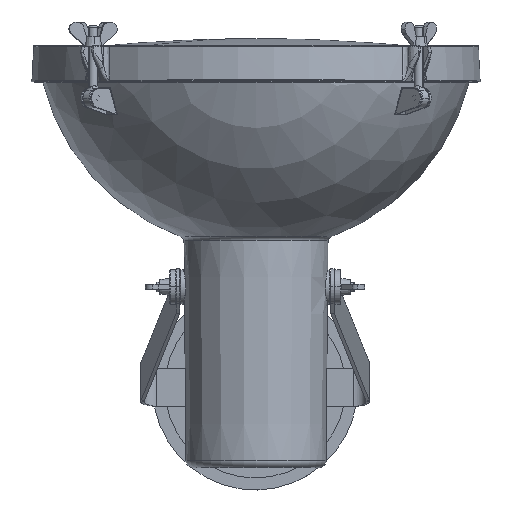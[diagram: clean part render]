
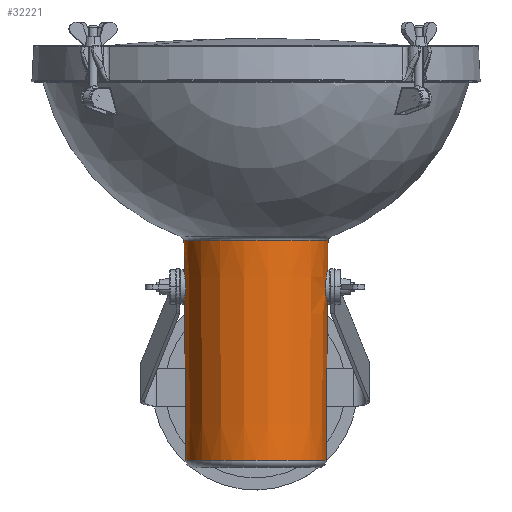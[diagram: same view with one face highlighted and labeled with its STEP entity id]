
A CAD part, top view. The second image highlights one B-rep face of the part: STEP entity #32221.
In plain terms, the highlighted conical face has half-angle 0.515 degrees and reference radius 58.11 mm.
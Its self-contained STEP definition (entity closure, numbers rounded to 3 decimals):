
#44 = DIRECTION ( 'NONE',  ( 0.009, 1., 0. ) ) ;
#427 = AXIS2_PLACEMENT_3D ( 'NONE', #31185, #9701, #34783 ) ;
#1172 = DIRECTION ( 'NONE',  ( -1., 0., 0. ) ) ;
#1487 = CARTESIAN_POINT ( 'NONE',  ( 59.01, 73.748, 243.933 ) ) ;
#1629 = CARTESIAN_POINT ( 'NONE',  ( 58.455, 86.421, 247.081 ) ) ;
#1712 = DIRECTION ( 'NONE',  ( 0., 1., 0. ) ) ;
#1784 = CARTESIAN_POINT ( 'NONE',  ( 59.855, 95.973, 239.519 ) ) ;
#2730 = VECTOR ( 'NONE', #20525, 1000. ) ;
#5096 = CARTESIAN_POINT ( 'NONE',  ( 58.705, 76.024, 245.565 ) ) ;
#5243 = CARTESIAN_POINT ( 'NONE',  ( 58.56, 87.772, 246.694 ) ) ;
#5415 = CARTESIAN_POINT ( 'NONE',  ( 60.015, 96.664, 237.796 ) ) ;
#8549 = CARTESIAN_POINT ( 'NONE',  ( 59.832, 69.399, 236.903 ) ) ;
#8713 = CARTESIAN_POINT ( 'NONE',  ( 58.506, 78.139, 246.542 ) ) ;
#8830 = LINE ( 'NONE', #33281, #17226 ) ;
#8867 = CARTESIAN_POINT ( 'NONE',  ( 58.735, 89.506, 245.997 ) ) ;
#9016 = CARTESIAN_POINT ( 'NONE',  ( 60.108, 97.052, 236.44 ) ) ;
#9701 = DIRECTION ( 'NONE',  ( 0., -1., 0. ) ) ;
#9819 = ORIENTED_EDGE ( 'NONE', *, *, #12167, .T. ) ;
#11078 = CARTESIAN_POINT ( 'NONE',  ( 60.418, 121.926, 233.2 ) ) ;
#12163 = CARTESIAN_POINT ( 'NONE',  ( 59.737, 69.828, 238.235 ) ) ;
#12167 = EDGE_CURVE ( 'NONE', #45948, #14100, #33043, .T. ) ;
#12308 = CARTESIAN_POINT ( 'NONE',  ( 58.417, 79.48, 246.973 ) ) ;
#12459 = CARTESIAN_POINT ( 'NONE',  ( 59.007, 91.483, 244.781 ) ) ;
#12613 = CARTESIAN_POINT ( 'NONE',  ( 60.198, 97.417, 234.135 ) ) ;
#14100 = VERTEX_POINT ( 'NONE', #11078 ) ;
#15745 = CARTESIAN_POINT ( 'NONE',  ( 59.619, 70.384, 239.513 ) ) ;
#15893 = CARTESIAN_POINT ( 'NONE',  ( 58.346, 81.306, 247.336 ) ) ;
#16056 = CARTESIAN_POINT ( 'NONE',  ( 59.184, 92.58, 243.909 ) ) ;
#16796 = EDGE_CURVE ( 'NONE', #38941, #45948, #35588, .T. ) ;
#17159 = CARTESIAN_POINT ( 'NONE',  ( 58.775, -60.887, 233.2 ) ) ;
#17226 = VECTOR ( 'NONE', #36888, 1000. ) ;
#18325 = CIRCLE ( 'NONE', #37962, 58.11 ) ;
#19177 = CARTESIAN_POINT ( 'NONE',  ( 59.942, 68.917, 234.133 ) ) ;
#19341 = CARTESIAN_POINT ( 'NONE',  ( 59.481, 71.067, 240.741 ) ) ;
#19491 = CARTESIAN_POINT ( 'NONE',  ( 58.331, 82.707, 247.45 ) ) ;
#19641 = CARTESIAN_POINT ( 'NONE',  ( 59.421, 93.904, 242.615 ) ) ;
#20525 = DIRECTION ( 'NONE',  ( -0.009, 1., 0. ) ) ;
#21224 = VERTEX_POINT ( 'NONE', #22443 ) ;
#22443 = CARTESIAN_POINT ( 'NONE',  ( -57.444, -60.887, 233.2 ) ) ;
#22479 = CONICAL_SURFACE ( 'NONE', #41797, 58.11, 0.009 ) ;
#22641 = DIRECTION ( 'NONE',  ( 0., -1., 0. ) ) ;
#22873 = VERTEX_POINT ( 'NONE', #41810 ) ;
#22928 = CARTESIAN_POINT ( 'NONE',  ( 59.224, 72.435, 242.621 ) ) ;
#23009 = DIRECTION ( 'NONE',  ( 1., 0., 0. ) ) ;
#23077 = CARTESIAN_POINT ( 'NONE',  ( 58.376, 85.051, 247.356 ) ) ;
#23163 = CARTESIAN_POINT ( 'NONE',  ( 0.665, -60.887, 233.2 ) ) ;
#23248 = CARTESIAN_POINT ( 'NONE',  ( 59.757, 95.536, 240.338 ) ) ;
#23652 = EDGE_CURVE ( 'NONE', #21224, #22873, #39796, .T. ) ;
#24099 = ORIENTED_EDGE ( 'NONE', *, *, #23652, .F. ) ;
#25124 = CARTESIAN_POINT ( 'NONE',  ( 58.775, -60.887, 233.2 ) ) ;
#25800 = CARTESIAN_POINT ( 'NONE',  ( 59.921, 69.008, 235.061 ) ) ;
#26402 = CARTESIAN_POINT ( 'NONE',  ( 59.942, 68.917, 233.2 ) ) ;
#26554 = CARTESIAN_POINT ( 'NONE',  ( 58.901, 74.48, 244.534 ) ) ;
#26602 = EDGE_LOOP ( 'NONE', ( #24099, #33072, #41874, #33036, #9819, #34127 ) ) ;
#26683 = EDGE_CURVE ( 'NONE', #14100, #22873, #31073, .T. ) ;
#26709 = CARTESIAN_POINT ( 'NONE',  ( 58.487, 86.874, 246.968 ) ) ;
#26850 = CARTESIAN_POINT ( 'NONE',  ( 59.978, 96.507, 238.234 ) ) ;
#30030 = CARTESIAN_POINT ( 'NONE',  ( 59.858, 69.284, 236.445 ) ) ;
#30165 = CARTESIAN_POINT ( 'NONE',  ( 58.617, 76.842, 246.004 ) ) ;
#30320 = CARTESIAN_POINT ( 'NONE',  ( 58.601, 88.215, 246.534 ) ) ;
#30469 = CARTESIAN_POINT ( 'NONE',  ( 60.08, 96.937, 236.9 ) ) ;
#31073 = CIRCLE ( 'NONE', #427, 59.753 ) ;
#31185 = CARTESIAN_POINT ( 'NONE',  ( 0.665, 121.926, 233.2 ) ) ;
#32221 = ADVANCED_FACE ( 'NONE', ( #42739 ), #22479, .T. ) ;
#33036 = ORIENTED_EDGE ( 'NONE', *, *, #16796, .T. ) ;
#33043 = LINE ( 'NONE', #25124, #41474 ) ;
#33072 = ORIENTED_EDGE ( 'NONE', *, *, #36600, .F. ) ;
#33281 = CARTESIAN_POINT ( 'NONE',  ( 58.775, -60.887, 233.2 ) ) ;
#33615 = CARTESIAN_POINT ( 'NONE',  ( 59.772, 69.671, 237.797 ) ) ;
#33766 = CARTESIAN_POINT ( 'NONE',  ( 58.473, 78.585, 246.701 ) ) ;
#33931 = CARTESIAN_POINT ( 'NONE',  ( 58.838, 90.322, 245.559 ) ) ;
#34085 = CARTESIAN_POINT ( 'NONE',  ( 60.175, 97.326, 235.061 ) ) ;
#34127 = ORIENTED_EDGE ( 'NONE', *, *, #26683, .T. ) ;
#34440 = VERTEX_POINT ( 'NONE', #17159 ) ;
#34783 = DIRECTION ( 'NONE',  ( -1., 0., 0. ) ) ;
#35588 = B_SPLINE_CURVE_WITH_KNOTS ( 'NONE', 3,
 ( #26402, #19177, #25800, #30030, #8549, #33615, #12163, #37236, #15745, #40866, #19341, #44493, #22928, #1487, #26554, #5096, #30165, #8713, #33766, #12308, #37400, #15893, #41016, #19491, #44651, #23077, #1629, #26709, #5243, #30320, #8867, #33931, #12459, #37545, #16056, #41170, #19641, #44813, #23248, #1784, #26850, #5415, #30469, #9016, #34085, #12613, #37702 ),
 .UNSPECIFIED., .F., .F.,
 ( 4, 2, 2, 2, 2, 2, 2, 2, 2, 2, 1, 2, 2, 2, 2, 2, 2, 2, 2, 2, 2, 2, 2, 4 ),
 ( 0.011, 0.014, 0.015, 0.017, 0.018, 0.02, 0.022, 0.025, 0.028, 0.029, 0.031, 0.032, 0.034, 0.036, 0.038, 0.039, 0.042, 0.043, 0.045, 0.048, 0.05, 0.052, 0.053, 0.056 ),
 .UNSPECIFIED. ) ;
#35746 = CARTESIAN_POINT ( 'NONE',  ( 60.198, 97.417, 233.2 ) ) ;
#36600 = EDGE_CURVE ( 'NONE', #34440, #21224, #18325, .T. ) ;
#36888 = DIRECTION ( 'NONE',  ( 0.009, 1., 0. ) ) ;
#37236 = CARTESIAN_POINT ( 'NONE',  ( 59.661, 70.185, 239.093 ) ) ;
#37400 = CARTESIAN_POINT ( 'NONE',  ( 58.371, 80.385, 247.199 ) ) ;
#37545 = CARTESIAN_POINT ( 'NONE',  ( 59.066, 91.861, 244.501 ) ) ;
#37702 = CARTESIAN_POINT ( 'NONE',  ( 60.198, 97.417, 233.2 ) ) ;
#37962 = AXIS2_PLACEMENT_3D ( 'NONE', #44195, #22641, #1172 ) ;
#38941 = VERTEX_POINT ( 'NONE', #40373 ) ;
#38958 = EDGE_CURVE ( 'NONE', #34440, #38941, #8830, .T. ) ;
#39796 = LINE ( 'NONE', #42067, #2730 ) ;
#40373 = CARTESIAN_POINT ( 'NONE',  ( 59.942, 68.917, 233.2 ) ) ;
#40866 = CARTESIAN_POINT ( 'NONE',  ( 59.529, 70.824, 240.336 ) ) ;
#41016 = CARTESIAN_POINT ( 'NONE',  ( 58.332, 82.236, 247.427 ) ) ;
#41170 = CARTESIAN_POINT ( 'NONE',  ( 59.243, 92.923, 243.597 ) ) ;
#41474 = VECTOR ( 'NONE', #44, 1000. ) ;
#41797 = AXIS2_PLACEMENT_3D ( 'NONE', #23163, #1712, #23009 ) ;
#41810 = CARTESIAN_POINT ( 'NONE',  ( -59.088, 121.926, 233.2 ) ) ;
#41874 = ORIENTED_EDGE ( 'NONE', *, *, #38958, .T. ) ;
#42067 = CARTESIAN_POINT ( 'NONE',  ( -57.444, -60.887, 233.2 ) ) ;
#42739 = FACE_OUTER_BOUND ( 'NONE', #26602, .T. ) ;
#44195 = CARTESIAN_POINT ( 'NONE',  ( 0.665, -60.887, 233.2 ) ) ;
#44493 = CARTESIAN_POINT ( 'NONE',  ( 59.331, 71.847, 241.905 ) ) ;
#44651 = CARTESIAN_POINT ( 'NONE',  ( 58.344, 84.122, 247.449 ) ) ;
#44813 = CARTESIAN_POINT ( 'NONE',  ( 59.538, 94.493, 241.899 ) ) ;
#45948 = VERTEX_POINT ( 'NONE', #35746 ) ;
